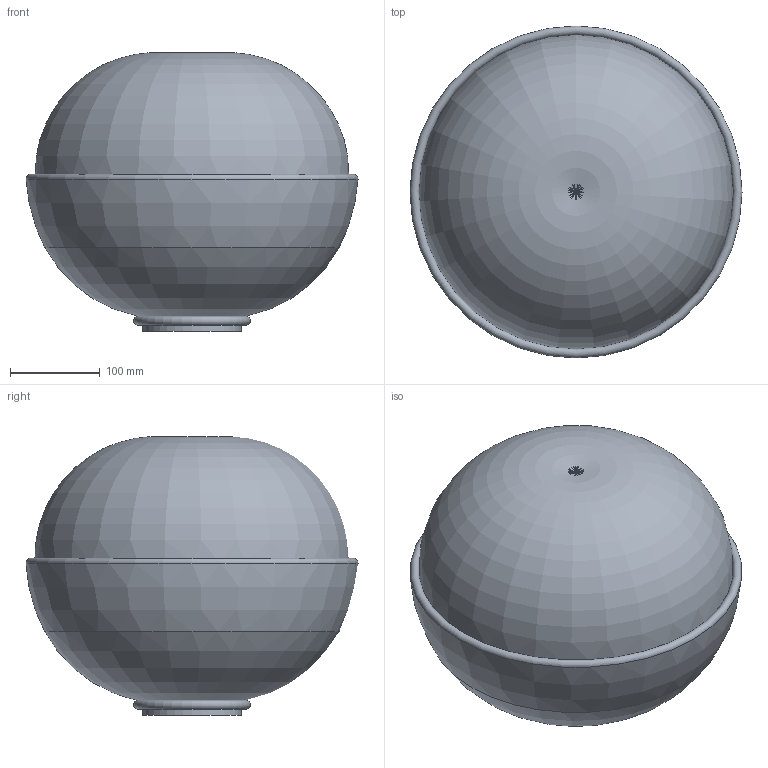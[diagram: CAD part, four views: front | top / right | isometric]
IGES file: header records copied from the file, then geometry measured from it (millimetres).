
Start section: Data from Parasolid IGES Translator 22.0.50, Copyright(c) 2006 Siemens P LM Software. All Rights Reserved.
Global section: file name: noorth-washbasin-H 18 D 37 W 37_4353.igs; native system: By Siemens PLM Incorporated; preprocessor: XPlus GENERIC/IGES 22.0.50; author: Noname; organization: Noname; date: 20240827.211456; units: metre
Bounding box: 369.99 x 369.99 x 310.61 mm (x, y, z)
Volume: 17435991.7 mm3; surface area: 568926.4 mm2
Topology: 1 solids, 1 shells, 18 faces, 43 edges, 28 vertices
Faces by surface type: torus 8, cylinder 4, plane 3, cone 3
Full cylindrical faces by diameter (mm): 10 x2, 46 x1, 110 x1
